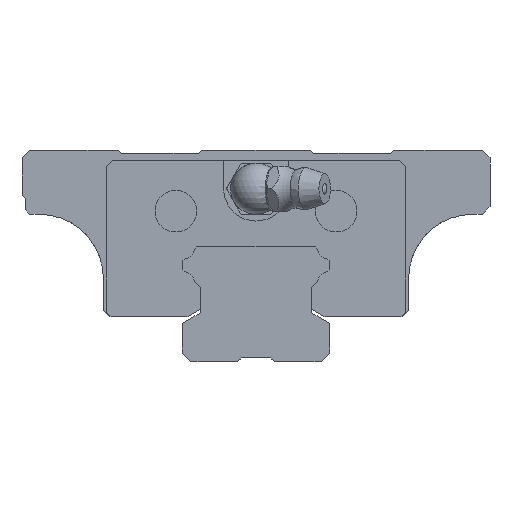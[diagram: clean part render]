
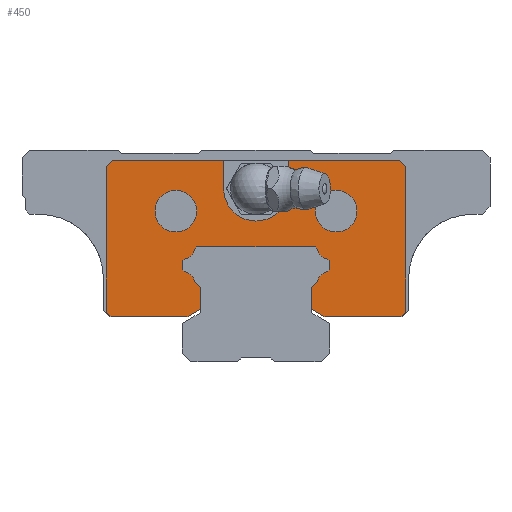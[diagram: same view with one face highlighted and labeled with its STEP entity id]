
A CAD part, front view. The second image highlights one B-rep face of the part: STEP entity #450.
In plain terms, the highlighted planar face has unit normal (0, -1, 0).
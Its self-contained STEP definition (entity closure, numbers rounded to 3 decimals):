
#192=FACE_BOUND('',#962,.T.);
#193=FACE_BOUND('',#963,.T.);
#285=CIRCLE('',#3630,2.2);
#287=CIRCLE('',#3636,2.2);
#289=CIRCLE('',#3642,2.2);
#291=CIRCLE('',#3648,2.2);
#303=CIRCLE('',#3693,3.25);
#304=CIRCLE('',#3694,3.25);
#305=CIRCLE('',#3695,5.05);
#450=ADVANCED_FACE('',(#192,#193,#771),#614,.F.);
#614=PLANE('',#3696);
#771=FACE_OUTER_BOUND('',#964,.T.);
#962=EDGE_LOOP('',(#1578));
#963=EDGE_LOOP('',(#1579));
#964=EDGE_LOOP('',(#1580,#1581,#1582,#1583,#1584,#1585,#1586,#1587,#1588,
#1589,#1590,#1591,#1592,#1593,#1594,#1595,#1596,#1597,#1598,#1599,#1600,
#1601,#1602,#1603,#1604,#1605,#1606,#1607,#1608,#1609,#1610,#1611));
#1578=ORIENTED_EDGE('',*,*,#2668,.F.);
#1579=ORIENTED_EDGE('',*,*,#2669,.F.);
#1580=ORIENTED_EDGE('',*,*,#2670,.F.);
#1581=ORIENTED_EDGE('',*,*,#2671,.T.);
#1582=ORIENTED_EDGE('',*,*,#2664,.F.);
#1583=ORIENTED_EDGE('',*,*,#2661,.T.);
#1584=ORIENTED_EDGE('',*,*,#2659,.F.);
#1585=ORIENTED_EDGE('',*,*,#2657,.T.);
#1586=ORIENTED_EDGE('',*,*,#2616,.F.);
#1587=ORIENTED_EDGE('',*,*,#2610,.T.);
#1588=ORIENTED_EDGE('',*,*,#2607,.F.);
#1589=ORIENTED_EDGE('',*,*,#2604,.F.);
#1590=ORIENTED_EDGE('',*,*,#2601,.T.);
#1591=ORIENTED_EDGE('',*,*,#2598,.F.);
#1592=ORIENTED_EDGE('',*,*,#2595,.F.);
#1593=ORIENTED_EDGE('',*,*,#2592,.T.);
#1594=ORIENTED_EDGE('',*,*,#2589,.T.);
#1595=ORIENTED_EDGE('',*,*,#2586,.T.);
#1596=ORIENTED_EDGE('',*,*,#2583,.T.);
#1597=ORIENTED_EDGE('',*,*,#2580,.F.);
#1598=ORIENTED_EDGE('',*,*,#2577,.T.);
#1599=ORIENTED_EDGE('',*,*,#2574,.F.);
#1600=ORIENTED_EDGE('',*,*,#2571,.T.);
#1601=ORIENTED_EDGE('',*,*,#2568,.T.);
#1602=ORIENTED_EDGE('',*,*,#2565,.T.);
#1603=ORIENTED_EDGE('',*,*,#2562,.T.);
#1604=ORIENTED_EDGE('',*,*,#2559,.T.);
#1605=ORIENTED_EDGE('',*,*,#2556,.F.);
#1606=ORIENTED_EDGE('',*,*,#2552,.T.);
#1607=ORIENTED_EDGE('',*,*,#2656,.F.);
#1608=ORIENTED_EDGE('',*,*,#2654,.T.);
#1609=ORIENTED_EDGE('',*,*,#2652,.F.);
#1610=ORIENTED_EDGE('',*,*,#2663,.F.);
#1611=ORIENTED_EDGE('',*,*,#2672,.F.);
#2180=VERTEX_POINT('',#5329);
#2181=VERTEX_POINT('',#5331);
#2184=VERTEX_POINT('',#5339);
#2186=VERTEX_POINT('',#5345);
#2188=VERTEX_POINT('',#5351);
#2190=VERTEX_POINT('',#5357);
#2192=VERTEX_POINT('',#5363);
#2194=VERTEX_POINT('',#5369);
#2196=VERTEX_POINT('',#5375);
#2198=VERTEX_POINT('',#5381);
#2200=VERTEX_POINT('',#5387);
#2202=VERTEX_POINT('',#5393);
#2204=VERTEX_POINT('',#5399);
#2206=VERTEX_POINT('',#5405);
#2208=VERTEX_POINT('',#5411);
#2210=VERTEX_POINT('',#5417);
#2212=VERTEX_POINT('',#5423);
#2214=VERTEX_POINT('',#5429);
#2216=VERTEX_POINT('',#5435);
#2218=VERTEX_POINT('',#5441);
#2220=VERTEX_POINT('',#5447);
#2223=VERTEX_POINT('',#5457);
#2240=VERTEX_POINT('',#5573);
#2241=VERTEX_POINT('',#5575);
#2242=VERTEX_POINT('',#5579);
#2243=VERTEX_POINT('',#5585);
#2244=VERTEX_POINT('',#5589);
#2245=VERTEX_POINT('',#5593);
#2246=VERTEX_POINT('',#5597);
#2247=VERTEX_POINT('',#5599);
#2250=VERTEX_POINT('',#5607);
#2251=VERTEX_POINT('',#5609);
#2252=VERTEX_POINT('',#5611);
#2253=VERTEX_POINT('',#5612);
#2552=EDGE_CURVE('',#2181,#2180,#2982,.T.);
#2556=EDGE_CURVE('',#2181,#2184,#2986,.T.);
#2559=EDGE_CURVE('',#2186,#2184,#2989,.T.);
#2562=EDGE_CURVE('',#2188,#2186,#2992,.T.);
#2565=EDGE_CURVE('',#2190,#2188,#285,.T.);
#2568=EDGE_CURVE('',#2192,#2190,#2996,.T.);
#2571=EDGE_CURVE('',#2194,#2192,#2999,.T.);
#2574=EDGE_CURVE('',#2194,#2196,#3002,.T.);
#2577=EDGE_CURVE('',#2198,#2196,#287,.T.);
#2580=EDGE_CURVE('',#2198,#2200,#3006,.T.);
#2583=EDGE_CURVE('',#2202,#2200,#3009,.T.);
#2586=EDGE_CURVE('',#2204,#2202,#3012,.T.);
#2589=EDGE_CURVE('',#2206,#2204,#289,.T.);
#2592=EDGE_CURVE('',#2208,#2206,#3016,.T.);
#2595=EDGE_CURVE('',#2208,#2210,#3019,.T.);
#2598=EDGE_CURVE('',#2210,#2212,#3022,.T.);
#2601=EDGE_CURVE('',#2214,#2212,#291,.T.);
#2604=EDGE_CURVE('',#2214,#2216,#3026,.T.);
#2607=EDGE_CURVE('',#2216,#2218,#3029,.T.);
#2610=EDGE_CURVE('',#2220,#2218,#3032,.T.);
#2616=EDGE_CURVE('',#2220,#2223,#3038,.T.);
#2652=EDGE_CURVE('',#2240,#2241,#3062,.T.);
#2654=EDGE_CURVE('',#2242,#2241,#3064,.T.);
#2656=EDGE_CURVE('',#2242,#2180,#3066,.T.);
#2657=EDGE_CURVE('',#2243,#2223,#3067,.T.);
#2659=EDGE_CURVE('',#2243,#2244,#3069,.T.);
#2661=EDGE_CURVE('',#2245,#2244,#3071,.T.);
#2663=EDGE_CURVE('',#2246,#2240,#3073,.T.);
#2664=EDGE_CURVE('',#2245,#2247,#3074,.T.);
#2668=EDGE_CURVE('',#2250,#2250,#303,.T.);
#2669=EDGE_CURVE('',#2251,#2251,#304,.T.);
#2670=EDGE_CURVE('',#2252,#2253,#305,.T.);
#2671=EDGE_CURVE('',#2252,#2247,#3078,.T.);
#2672=EDGE_CURVE('',#2253,#2246,#3079,.T.);
#2982=LINE('',#5330,#3324);
#2986=LINE('',#5338,#3328);
#2989=LINE('',#5344,#3331);
#2992=LINE('',#5350,#3334);
#2996=LINE('',#5362,#3338);
#2999=LINE('',#5368,#3341);
#3002=LINE('',#5374,#3344);
#3006=LINE('',#5386,#3348);
#3009=LINE('',#5392,#3351);
#3012=LINE('',#5398,#3354);
#3016=LINE('',#5410,#3358);
#3019=LINE('',#5416,#3361);
#3022=LINE('',#5422,#3364);
#3026=LINE('',#5434,#3368);
#3029=LINE('',#5440,#3371);
#3032=LINE('',#5446,#3374);
#3038=LINE('',#5456,#3380);
#3062=LINE('',#5574,#3404);
#3064=LINE('',#5578,#3406);
#3066=LINE('',#5582,#3408);
#3067=LINE('',#5584,#3409);
#3069=LINE('',#5588,#3411);
#3071=LINE('',#5592,#3413);
#3073=LINE('',#5596,#3415);
#3074=LINE('',#5598,#3416);
#3078=LINE('',#5613,#3420);
#3079=LINE('',#5614,#3421);
#3324=VECTOR('',#4130,1.);
#3328=VECTOR('',#4136,1.);
#3331=VECTOR('',#4141,1.);
#3334=VECTOR('',#4146,1.);
#3338=VECTOR('',#4158,1.);
#3341=VECTOR('',#4163,1.);
#3344=VECTOR('',#4168,1.);
#3348=VECTOR('',#4180,1.);
#3351=VECTOR('',#4185,1.);
#3354=VECTOR('',#4190,1.);
#3358=VECTOR('',#4202,1.);
#3361=VECTOR('',#4207,1.);
#3364=VECTOR('',#4212,1.);
#3368=VECTOR('',#4224,1.);
#3371=VECTOR('',#4229,1.);
#3374=VECTOR('',#4234,1.);
#3380=VECTOR('',#4242,1.);
#3404=VECTOR('',#4330,1.);
#3406=VECTOR('',#4334,1.);
#3408=VECTOR('',#4338,1.);
#3409=VECTOR('',#4341,1.);
#3411=VECTOR('',#4345,1.);
#3413=VECTOR('',#4349,1.);
#3415=VECTOR('',#4353,1.);
#3416=VECTOR('',#4354,1.);
#3420=VECTOR('',#4366,1.);
#3421=VECTOR('',#4367,1.);
#3630=AXIS2_PLACEMENT_3D('',#5356,#4151,#4152);
#3636=AXIS2_PLACEMENT_3D('',#5380,#4173,#4174);
#3642=AXIS2_PLACEMENT_3D('',#5404,#4195,#4196);
#3648=AXIS2_PLACEMENT_3D('',#5428,#4217,#4218);
#3693=AXIS2_PLACEMENT_3D('',#5606,#4360,#4361);
#3694=AXIS2_PLACEMENT_3D('',#5608,#4362,#4363);
#3695=AXIS2_PLACEMENT_3D('',#5610,#4364,#4365);
#3696=AXIS2_PLACEMENT_3D('',#5615,#4368,#4369);
#4130=DIRECTION('',(1.,0.,0.));
#4136=DIRECTION('',(-0.866,0.,0.5));
#4141=DIRECTION('',(0.,0.,-1.));
#4146=DIRECTION('',(-0.707,0.,-0.707));
#4151=DIRECTION('',(0.,-1.,0.));
#4152=DIRECTION('',(1.,0.,0.));
#4158=DIRECTION('',(-0.707,0.,-0.707));
#4163=DIRECTION('',(0.,0.,-1.));
#4168=DIRECTION('',(-0.707,0.,0.707));
#4173=DIRECTION('',(0.,-1.,0.));
#4174=DIRECTION('',(1.,0.,0.));
#4180=DIRECTION('',(-0.707,0.,0.707));
#4185=DIRECTION('',(1.,0.,0.));
#4190=DIRECTION('',(0.707,0.,0.707));
#4195=DIRECTION('',(0.,-1.,0.));
#4196=DIRECTION('',(1.,0.,0.));
#4202=DIRECTION('',(0.707,0.,0.707));
#4207=DIRECTION('',(0.,0.,-1.));
#4212=DIRECTION('',(0.707,0.,-0.707));
#4217=DIRECTION('',(0.,-1.,0.));
#4218=DIRECTION('',(1.,0.,0.));
#4224=DIRECTION('',(0.707,0.,-0.707));
#4229=DIRECTION('',(0.,0.,-1.));
#4234=DIRECTION('',(0.866,0.,0.5));
#4242=DIRECTION('',(-1.,0.,0.));
#4330=DIRECTION('',(0.707,0.,-0.707));
#4334=DIRECTION('',(0.,0.,1.));
#4338=DIRECTION('',(-0.707,0.,-0.707));
#4341=DIRECTION('',(0.707,0.,-0.707));
#4345=DIRECTION('',(0.,0.,1.));
#4349=DIRECTION('',(-0.707,0.,-0.707));
#4353=DIRECTION('',(1.,0.,0.));
#4354=DIRECTION('',(1.,0.,0.));
#4360=DIRECTION('',(0.,-1.,0.));
#4361=DIRECTION('',(0.,0.,-1.));
#4362=DIRECTION('',(0.,-1.,0.));
#4363=DIRECTION('',(0.,0.,-1.));
#4364=DIRECTION('',(0.,-1.,0.));
#4365=DIRECTION('',(1.,0.,0.));
#4366=DIRECTION('',(0.,0.,1.));
#4367=DIRECTION('',(0.,0.,1.));
#4368=DIRECTION('',(0.,1.,0.));
#4369=DIRECTION('',(0.,0.,-1.));
#5329=CARTESIAN_POINT('',(22.616,-41.,6.4));
#5330=CARTESIAN_POINT('',(10.768,-41.,6.4));
#5331=CARTESIAN_POINT('',(10.768,-41.,6.4));
#5338=CARTESIAN_POINT('',(10.768,-41.,6.4));
#5339=CARTESIAN_POINT('',(8.63,-41.,7.634));
#5344=CARTESIAN_POINT('',(8.63,-41.,10.921));
#5345=CARTESIAN_POINT('',(8.63,-41.,10.921));
#5350=CARTESIAN_POINT('',(9.503,-41.,11.794));
#5351=CARTESIAN_POINT('',(9.503,-41.,11.794));
#5356=CARTESIAN_POINT('',(11.656,-41.,11.344));
#5357=CARTESIAN_POINT('',(11.206,-41.,13.497));
#5362=CARTESIAN_POINT('',(11.43,-41.,13.721));
#5363=CARTESIAN_POINT('',(11.43,-41.,13.721));
#5368=CARTESIAN_POINT('',(11.43,-41.,15.179));
#5369=CARTESIAN_POINT('',(11.43,-41.,15.179));
#5374=CARTESIAN_POINT('',(11.43,-41.,15.179));
#5375=CARTESIAN_POINT('',(11.206,-41.,15.403));
#5380=CARTESIAN_POINT('',(11.656,-41.,17.556));
#5381=CARTESIAN_POINT('',(9.503,-41.,17.106));
#5386=CARTESIAN_POINT('',(9.503,-41.,17.106));
#5387=CARTESIAN_POINT('',(9.279,-41.,17.33));
#5392=CARTESIAN_POINT('',(-9.279,-41.,17.33));
#5393=CARTESIAN_POINT('',(-9.279,-41.,17.33));
#5398=CARTESIAN_POINT('',(-9.503,-41.,17.106));
#5399=CARTESIAN_POINT('',(-9.503,-41.,17.106));
#5404=CARTESIAN_POINT('',(-11.656,-41.,17.556));
#5405=CARTESIAN_POINT('',(-11.206,-41.,15.403));
#5410=CARTESIAN_POINT('',(-11.43,-41.,15.179));
#5411=CARTESIAN_POINT('',(-11.43,-41.,15.179));
#5416=CARTESIAN_POINT('',(-11.43,-41.,15.179));
#5417=CARTESIAN_POINT('',(-11.43,-41.,13.721));
#5422=CARTESIAN_POINT('',(-11.43,-41.,13.721));
#5423=CARTESIAN_POINT('',(-11.206,-41.,13.497));
#5428=CARTESIAN_POINT('',(-11.656,-41.,11.344));
#5429=CARTESIAN_POINT('',(-9.503,-41.,11.794));
#5434=CARTESIAN_POINT('',(-9.503,-41.,11.794));
#5435=CARTESIAN_POINT('',(-8.63,-41.,10.921));
#5440=CARTESIAN_POINT('',(-8.63,-41.,10.921));
#5441=CARTESIAN_POINT('',(-8.63,-41.,7.634));
#5446=CARTESIAN_POINT('',(-10.768,-41.,6.4));
#5447=CARTESIAN_POINT('',(-10.768,-41.,6.4));
#5456=CARTESIAN_POINT('',(-10.768,-41.,6.4));
#5457=CARTESIAN_POINT('',(-22.616,-41.,6.4));
#5573=CARTESIAN_POINT('',(22.42,-41.,30.77));
#5574=CARTESIAN_POINT('',(22.42,-41.,30.77));
#5575=CARTESIAN_POINT('',(23.37,-41.,29.82));
#5578=CARTESIAN_POINT('',(23.37,-41.,7.154));
#5579=CARTESIAN_POINT('',(23.37,-41.,7.154));
#5582=CARTESIAN_POINT('',(23.37,-41.,7.154));
#5584=CARTESIAN_POINT('',(-23.37,-41.,7.154));
#5585=CARTESIAN_POINT('',(-23.37,-41.,7.154));
#5588=CARTESIAN_POINT('',(-23.37,-41.,7.154));
#5589=CARTESIAN_POINT('',(-23.37,-41.,29.82));
#5592=CARTESIAN_POINT('',(-22.42,-41.,30.77));
#5593=CARTESIAN_POINT('',(-22.42,-41.,30.77));
#5596=CARTESIAN_POINT('',(-22.42,-41.,30.77));
#5597=CARTESIAN_POINT('',(5.05,-41.,30.77));
#5598=CARTESIAN_POINT('',(-22.42,-41.,30.77));
#5599=CARTESIAN_POINT('',(-5.05,-41.,30.77));
#5606=CARTESIAN_POINT('',(12.5,-41.,22.9));
#5607=CARTESIAN_POINT('',(12.5,-41.,19.65));
#5608=CARTESIAN_POINT('',(-12.5,-41.,22.9));
#5609=CARTESIAN_POINT('',(-12.5,-41.,19.65));
#5610=CARTESIAN_POINT('',(0.,-41.,26.4));
#5611=CARTESIAN_POINT('',(-5.05,-41.,26.4));
#5612=CARTESIAN_POINT('',(5.05,-41.,26.4));
#5613=CARTESIAN_POINT('',(-5.05,-41.,26.4));
#5614=CARTESIAN_POINT('',(5.05,-41.,26.4));
#5615=CARTESIAN_POINT('',(11.656,-41.,11.344));
